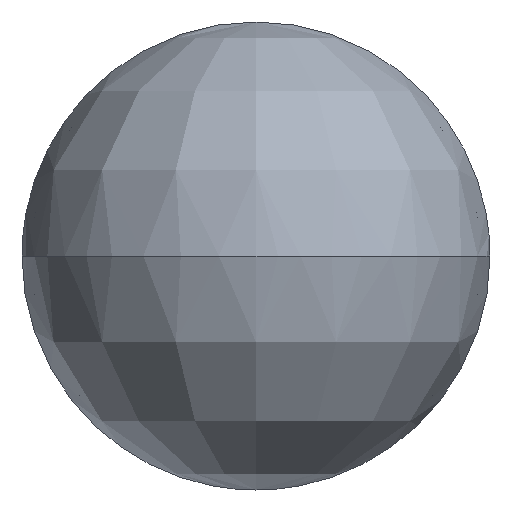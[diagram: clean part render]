
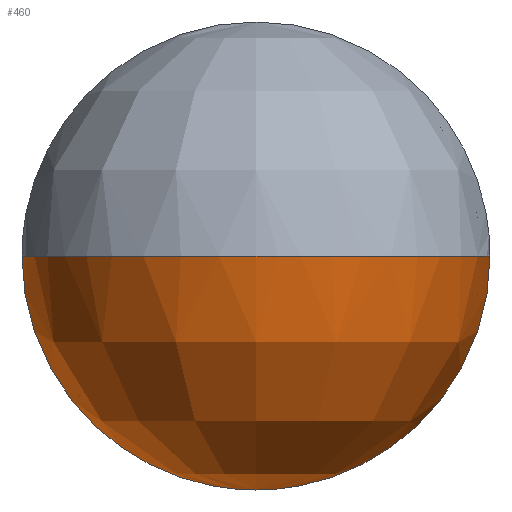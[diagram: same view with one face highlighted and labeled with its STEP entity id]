
A CAD part, front view. The second image highlights one B-rep face of the part: STEP entity #460.
In plain terms, the highlighted free-form (B-spline) face has degree [2, 2] with [5, 5] control points.
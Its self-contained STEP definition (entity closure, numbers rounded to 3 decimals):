
#460=ADVANCED_FACE('',(#925),#6980,.T.);
#925=FACE_OUTER_BOUND('',#1421,.T.);
#1421=EDGE_LOOP('',(#3097,#3098,#3099,#3100));
#3097=ORIENTED_EDGE('',*,*,#4537,.T.);
#3098=ORIENTED_EDGE('',*,*,#4524,.T.);
#3099=ORIENTED_EDGE('',*,*,#4526,.T.);
#3100=ORIENTED_EDGE('',*,*,#4536,.F.);
#4524=EDGE_CURVE('',#6435,#6436,#5788,.T.);
#4526=EDGE_CURVE('',#6436,#6432,#5790,.T.);
#4536=EDGE_CURVE('',#6440,#6432,#5800,.T.);
#4537=EDGE_CURVE('',#6440,#6435,#5801,.T.);
#5788=(
BOUNDED_CURVE()
B_SPLINE_CURVE(2,(#38049,#38050,#38051),.UNSPECIFIED.,.F.,.F.)
B_SPLINE_CURVE_WITH_KNOTS((3,3),(0.,117.81),.UNSPECIFIED.)
CURVE()
GEOMETRIC_REPRESENTATION_ITEM()
RATIONAL_B_SPLINE_CURVE((1.,0.707,1.))
REPRESENTATION_ITEM('')
);
#5790=(
BOUNDED_CURVE()
B_SPLINE_CURVE(2,(#38055,#38056,#38057),.UNSPECIFIED.,.F.,.F.)
B_SPLINE_CURVE_WITH_KNOTS((3,3),(117.81,235.619),
 .UNSPECIFIED.)
CURVE()
GEOMETRIC_REPRESENTATION_ITEM()
RATIONAL_B_SPLINE_CURVE((1.,0.707,1.))
REPRESENTATION_ITEM('')
);
#5800=(
BOUNDED_CURVE()
B_SPLINE_CURVE(2,(#38091,#38092,#38093),.UNSPECIFIED.,.F.,.F.)
B_SPLINE_CURVE_WITH_KNOTS((3,3),(117.81,235.619),
 .UNSPECIFIED.)
CURVE()
GEOMETRIC_REPRESENTATION_ITEM()
RATIONAL_B_SPLINE_CURVE((1.,0.707,1.))
REPRESENTATION_ITEM('')
);
#5801=(
BOUNDED_CURVE()
B_SPLINE_CURVE(2,(#38094,#38095,#38096),.UNSPECIFIED.,.F.,.F.)
B_SPLINE_CURVE_WITH_KNOTS((3,3),(96.265,214.074),
 .UNSPECIFIED.)
CURVE()
GEOMETRIC_REPRESENTATION_ITEM()
RATIONAL_B_SPLINE_CURVE((1.,0.707,1.))
REPRESENTATION_ITEM('')
);
#6432=VERTEX_POINT('',#38010);
#6435=VERTEX_POINT('',#38013);
#6436=VERTEX_POINT('',#38014);
#6440=VERTEX_POINT('',#38018);
#6980=(
BOUNDED_SURFACE()
B_SPLINE_SURFACE(2,2,((#37926,#37927,#37928,#37929,#37930),(#37931,#37932,
#37933,#37934,#37935),(#37936,#37937,#37938,#37939,#37940),(#37941,#37942,
#37943,#37944,#37945),(#37946,#37947,#37948,#37949,#37950)),
 .UNSPECIFIED.,.F.,.F.,.F.)
B_SPLINE_SURFACE_WITH_KNOTS((3,2,3),(3,2,3),(235.619,353.429,
471.239),(0.,117.81,235.619),.UNSPECIFIED.)
GEOMETRIC_REPRESENTATION_ITEM()
RATIONAL_B_SPLINE_SURFACE(((1.,0.707,1.,0.707,1.),
(0.707,0.5,0.707,0.5,0.707),(1.,0.707,
1.,0.707,1.),(0.707,0.5,0.707,0.5,0.707),
(1.,0.707,1.,0.707,1.)))
REPRESENTATION_ITEM('')
SURFACE()
);
#37926=CARTESIAN_POINT('',(0.,-3198.827,75.));
#37927=CARTESIAN_POINT('',(75.,-3198.827,75.));
#37928=CARTESIAN_POINT('',(75.,-3198.827,0.));
#37929=CARTESIAN_POINT('',(75.,-3198.827,-75.));
#37930=CARTESIAN_POINT('',(0.,-3198.827,-75.));
#37931=CARTESIAN_POINT('',(0.,-3198.827,75.));
#37932=CARTESIAN_POINT('',(75.,-3273.827,75.));
#37933=CARTESIAN_POINT('',(75.,-3273.827,0.));
#37934=CARTESIAN_POINT('',(75.,-3273.827,-75.));
#37935=CARTESIAN_POINT('',(0.,-3198.827,-75.));
#37936=CARTESIAN_POINT('',(0.,-3198.827,75.));
#37937=CARTESIAN_POINT('',(0.,-3273.827,75.));
#37938=CARTESIAN_POINT('',(0.,-3273.827,0.));
#37939=CARTESIAN_POINT('',(0.,-3273.827,-75.));
#37940=CARTESIAN_POINT('',(0.,-3198.827,-75.));
#37941=CARTESIAN_POINT('',(0.,-3198.827,75.));
#37942=CARTESIAN_POINT('',(-75.,-3273.827,75.));
#37943=CARTESIAN_POINT('',(-75.,-3273.827,0.));
#37944=CARTESIAN_POINT('',(-75.,-3273.827,-75.));
#37945=CARTESIAN_POINT('',(0.,-3198.827,-75.));
#37946=CARTESIAN_POINT('',(0.,-3198.827,75.));
#37947=CARTESIAN_POINT('',(-75.,-3198.827,75.));
#37948=CARTESIAN_POINT('',(-75.,-3198.827,0.));
#37949=CARTESIAN_POINT('',(-75.,-3198.827,-75.));
#37950=CARTESIAN_POINT('',(0.,-3198.827,-75.));
#38010=CARTESIAN_POINT('',(0.,-3198.827,-75.));
#38013=CARTESIAN_POINT('',(0.,-3273.827,0.));
#38014=CARTESIAN_POINT('',(-75.,-3198.827,0.));
#38018=CARTESIAN_POINT('',(75.,-3198.827,0.));
#38049=CARTESIAN_POINT('',(0.,-3273.827,0.));
#38050=CARTESIAN_POINT('',(-75.,-3273.827,0.));
#38051=CARTESIAN_POINT('',(-75.,-3198.827,0.));
#38055=CARTESIAN_POINT('',(-75.,-3198.827,0.));
#38056=CARTESIAN_POINT('',(-75.,-3198.827,-75.));
#38057=CARTESIAN_POINT('',(0.,-3198.827,-75.));
#38091=CARTESIAN_POINT('',(75.,-3198.827,0.));
#38092=CARTESIAN_POINT('',(75.,-3198.827,-75.));
#38093=CARTESIAN_POINT('',(0.,-3198.827,-75.));
#38094=CARTESIAN_POINT('',(75.,-3198.827,0.));
#38095=CARTESIAN_POINT('',(75.,-3273.827,0.));
#38096=CARTESIAN_POINT('',(0.,-3273.827,0.));
